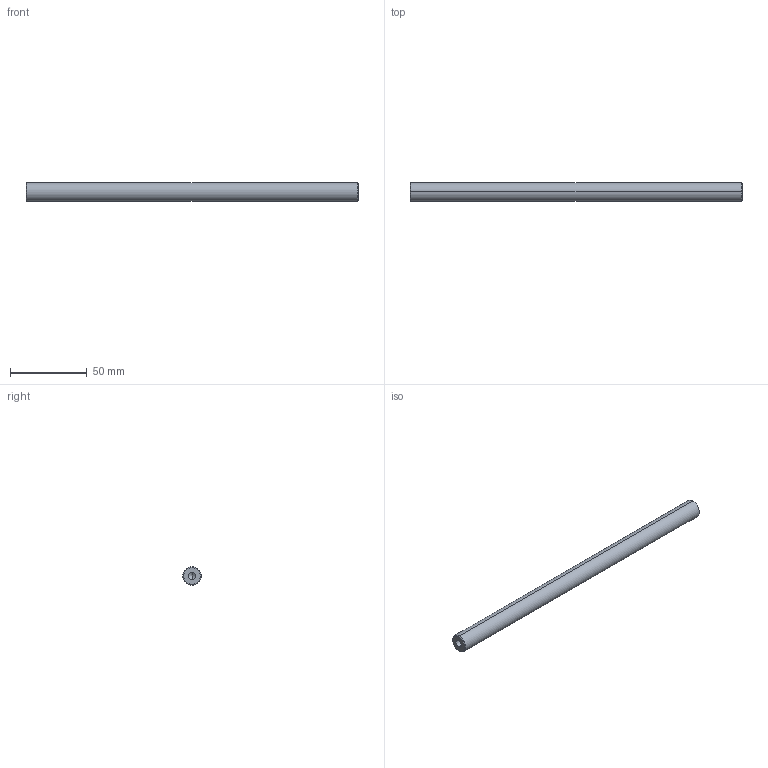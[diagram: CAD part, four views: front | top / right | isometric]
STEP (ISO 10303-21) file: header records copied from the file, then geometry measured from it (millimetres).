
FILE_DESCRIPTION (( 'STEP AP203' ), '1' );
FILE_NAME ('084.801.045.STEP', '2013-02-01T07:34:10', ( 'Alusic' ), ( 'Alusic' ), 'SwSTEP 2.0', 'SolidWorks 2011', '' );
FILE_SCHEMA (( 'CONFIG_CONTROL_DESIGN' ));
Length unit declared in the file: millimetre
Products named in the file (1): 084.801.045
Bounding box: 216 x 12 x 12 mm (x, y, z)
Volume: 23732.6 mm3; surface area: 8887.1 mm2
Topology: 1 solids, 1 shells, 16 faces, 34 edges, 18 vertices
Faces by surface type: cone 8, cylinder 6, plane 2
Entity records: 479 total; most frequent: DIRECTION 80, CARTESIAN_POINT 65, ORIENTED_EDGE 60, AXIS2_PLACEMENT_3D 33, EDGE_CURVE 30, EDGE_LOOP 18, VERTEX_POINT 18, ADVANCED_FACE 16
